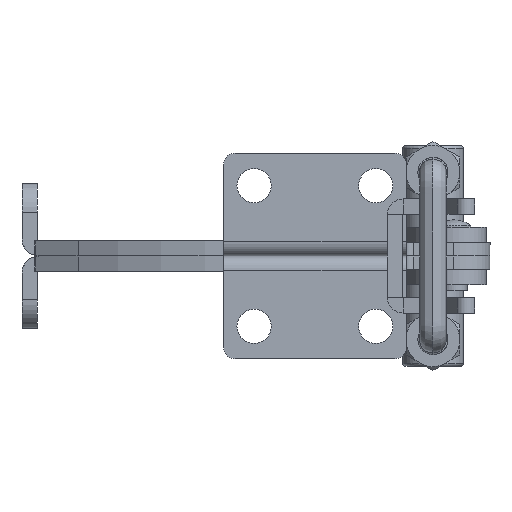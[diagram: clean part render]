
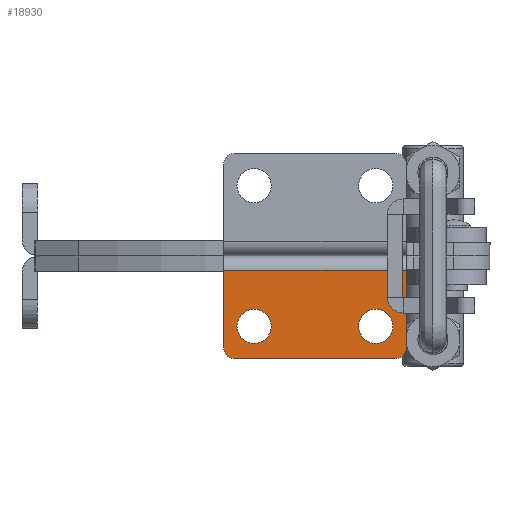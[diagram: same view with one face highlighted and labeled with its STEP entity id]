
A CAD part, front view. The second image highlights one B-rep face of the part: STEP entity #18930.
In plain terms, the highlighted planar face has unit normal (0, -1, 0).
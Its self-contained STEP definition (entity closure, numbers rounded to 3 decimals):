
#18 = CIRCLE ( 'NONE', #1683, 4.5 ) ;
#989 = EDGE_CURVE ( 'NONE', #21407, #18246, #18, .T. ) ;
#1028 = VERTEX_POINT ( 'NONE', #24551 ) ;
#1224 = VECTOR ( 'NONE', #21016, 1000. ) ;
#1400 = ORIENTED_EDGE ( 'NONE', *, *, #12962, .F. ) ;
#1683 = AXIS2_PLACEMENT_3D ( 'NONE', #22549, #23875, #23618 ) ;
#2531 = AXIS2_PLACEMENT_3D ( 'NONE', #17961, #13402, #29362 ) ;
#2892 = ORIENTED_EDGE ( 'NONE', *, *, #989, .F. ) ;
#2952 = EDGE_CURVE ( 'NONE', #1028, #13413, #19111, .T. ) ;
#2980 = CARTESIAN_POINT ( 'NONE',  ( 62., 0., 18.5 ) ) ;
#3311 = FACE_BOUND ( 'NONE', #10396, .T. ) ;
#3641 = EDGE_CURVE ( 'NONE', #24268, #13709, #28662, .T. ) ;
#3902 = CARTESIAN_POINT ( 'NONE',  ( 22., 0., 0. ) ) ;
#4366 = CARTESIAN_POINT ( 'NONE',  ( 22., 0., 24. ) ) ;
#4579 = DIRECTION ( 'NONE',  ( 0., 0., -1. ) ) ;
#4722 = FACE_BOUND ( 'NONE', #23131, .T. ) ;
#4802 = CARTESIAN_POINT ( 'NONE',  ( 25., 0., 24. ) ) ;
#4913 = DIRECTION ( 'NONE',  ( 0., -1., 0. ) ) ;
#4982 = CARTESIAN_POINT ( 'NONE',  ( 67., 0., 24. ) ) ;
#5246 = CARTESIAN_POINT ( 'NONE',  ( 67., 0., 27. ) ) ;
#5266 = DIRECTION ( 'NONE',  ( 0., 0., -1. ) ) ;
#5363 = ORIENTED_EDGE ( 'NONE', *, *, #10136, .F. ) ;
#5482 = VERTEX_POINT ( 'NONE', #15442 ) ;
#5505 = ORIENTED_EDGE ( 'NONE', *, *, #2952, .F. ) ;
#5861 = ORIENTED_EDGE ( 'NONE', *, *, #14099, .T. ) ;
#5905 = CARTESIAN_POINT ( 'NONE',  ( 70., 0., 0. ) ) ;
#5938 = CIRCLE ( 'NONE', #22686, 4.5 ) ;
#6511 = AXIS2_PLACEMENT_3D ( 'NONE', #4802, #20956, #7124 ) ;
#6671 = CARTESIAN_POINT ( 'NONE',  ( 30., 0., 14. ) ) ;
#6929 = EDGE_CURVE ( 'NONE', #1028, #5482, #22899, .T. ) ;
#6977 = EDGE_CURVE ( 'NONE', #5482, #7302, #23614, .T. ) ;
#7124 = DIRECTION ( 'NONE',  ( 0., 0., -1. ) ) ;
#7302 = VERTEX_POINT ( 'NONE', #5246 ) ;
#7337 = LINE ( 'NONE', #25468, #1224 ) ;
#7750 = ORIENTED_EDGE ( 'NONE', *, *, #6929, .T. ) ;
#7885 = ORIENTED_EDGE ( 'NONE', *, *, #12575, .F. ) ;
#10012 = LINE ( 'NONE', #3902, #27537 ) ;
#10036 = AXIS2_PLACEMENT_3D ( 'NONE', #10522, #29690, #21625 ) ;
#10136 = EDGE_CURVE ( 'NONE', #13413, #20919, #10012, .T. ) ;
#10396 = EDGE_LOOP ( 'NONE', ( #1400, #16786 ) ) ;
#10522 = CARTESIAN_POINT ( 'NONE',  ( 62., 0., 18.5 ) ) ;
#11342 = CIRCLE ( 'NONE', #6511, 3. ) ;
#12347 = CARTESIAN_POINT ( 'NONE',  ( 70., 0., 3.7 ) ) ;
#12575 = EDGE_CURVE ( 'NONE', #18246, #21407, #15691, .T. ) ;
#12962 = EDGE_CURVE ( 'NONE', #13709, #24268, #5938, .T. ) ;
#13175 = CARTESIAN_POINT ( 'NONE',  ( 30., 0., 18.5 ) ) ;
#13402 = DIRECTION ( 'NONE',  ( 0., -1., 0. ) ) ;
#13413 = VERTEX_POINT ( 'NONE', #20291 ) ;
#13709 = VERTEX_POINT ( 'NONE', #23740 ) ;
#13968 = ORIENTED_EDGE ( 'NONE', *, *, #6977, .T. ) ;
#14099 = EDGE_CURVE ( 'NONE', #28748, #20919, #11342, .T. ) ;
#14892 = EDGE_CURVE ( 'NONE', #7302, #28748, #7337, .T. ) ;
#14953 = CARTESIAN_POINT ( 'NONE',  ( 30., 0., 23. ) ) ;
#15442 = CARTESIAN_POINT ( 'NONE',  ( 70., 0., 24. ) ) ;
#15478 = DIRECTION ( 'NONE',  ( 0., 0., -1. ) ) ;
#15691 = CIRCLE ( 'NONE', #26283, 4.5 ) ;
#16786 = ORIENTED_EDGE ( 'NONE', *, *, #3641, .F. ) ;
#17016 = FACE_OUTER_BOUND ( 'NONE', #18503, .T. ) ;
#17079 = ORIENTED_EDGE ( 'NONE', *, *, #14892, .T. ) ;
#17556 = VECTOR ( 'NONE', #28946, 1000. ) ;
#17961 = CARTESIAN_POINT ( 'NONE',  ( 70., 0., 0. ) ) ;
#18246 = VERTEX_POINT ( 'NONE', #6671 ) ;
#18503 = EDGE_LOOP ( 'NONE', ( #7750, #13968, #17079, #5861, #5363, #5505 ) ) ;
#18930 = ADVANCED_FACE ( 'NONE', ( #3311, #4722, #17016 ), #27092, .T. ) ;
#19105 = DIRECTION ( 'NONE',  ( 0., -1., 0. ) ) ;
#19111 = LINE ( 'NONE', #12347, #19840 ) ;
#19588 = AXIS2_PLACEMENT_3D ( 'NONE', #4982, #4913, #4579 ) ;
#19679 = DIRECTION ( 'NONE',  ( -1., 0., 0. ) ) ;
#19840 = VECTOR ( 'NONE', #19679, 1000. ) ;
#20291 = CARTESIAN_POINT ( 'NONE',  ( 22., 0., 3.7 ) ) ;
#20919 = VERTEX_POINT ( 'NONE', #4366 ) ;
#20956 = DIRECTION ( 'NONE',  ( 0., -1., 0. ) ) ;
#21016 = DIRECTION ( 'NONE',  ( -1., 0., 0. ) ) ;
#21407 = VERTEX_POINT ( 'NONE', #14953 ) ;
#21625 = DIRECTION ( 'NONE',  ( 0., 0., -1. ) ) ;
#22549 = CARTESIAN_POINT ( 'NONE',  ( 30., 0., 18.5 ) ) ;
#22686 = AXIS2_PLACEMENT_3D ( 'NONE', #2980, #19105, #5266 ) ;
#22899 = LINE ( 'NONE', #5905, #17556 ) ;
#23131 = EDGE_LOOP ( 'NONE', ( #2892, #7885 ) ) ;
#23614 = CIRCLE ( 'NONE', #19588, 3. ) ;
#23618 = DIRECTION ( 'NONE',  ( 0., 0., -1. ) ) ;
#23740 = CARTESIAN_POINT ( 'NONE',  ( 62., 0., 23. ) ) ;
#23875 = DIRECTION ( 'NONE',  ( 0., -1., 0. ) ) ;
#24268 = VERTEX_POINT ( 'NONE', #28078 ) ;
#24551 = CARTESIAN_POINT ( 'NONE',  ( 70., 0., 3.7 ) ) ;
#24685 = DIRECTION ( 'NONE',  ( 0., 0., 1. ) ) ;
#25468 = CARTESIAN_POINT ( 'NONE',  ( 70., 0., 27. ) ) ;
#26283 = AXIS2_PLACEMENT_3D ( 'NONE', #13175, #29121, #15478 ) ;
#27092 = PLANE ( 'NONE',  #2531 ) ;
#27285 = CARTESIAN_POINT ( 'NONE',  ( 25., 0., 27. ) ) ;
#27537 = VECTOR ( 'NONE', #24685, 1000. ) ;
#28078 = CARTESIAN_POINT ( 'NONE',  ( 62., 0., 14. ) ) ;
#28662 = CIRCLE ( 'NONE', #10036, 4.5 ) ;
#28748 = VERTEX_POINT ( 'NONE', #27285 ) ;
#28946 = DIRECTION ( 'NONE',  ( 0., 0., 1. ) ) ;
#29121 = DIRECTION ( 'NONE',  ( 0., -1., 0. ) ) ;
#29362 = DIRECTION ( 'NONE',  ( 0., 0., -1. ) ) ;
#29690 = DIRECTION ( 'NONE',  ( 0., -1., 0. ) ) ;
